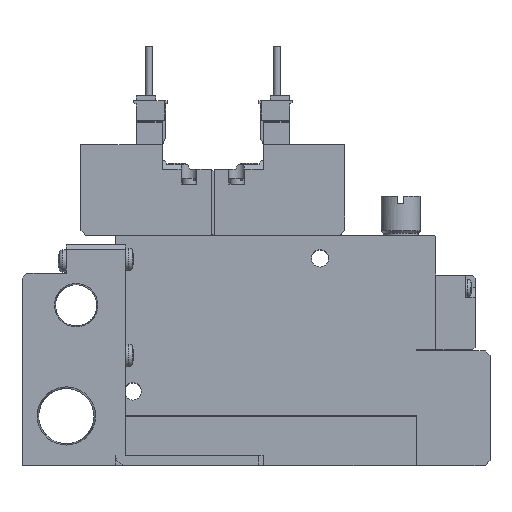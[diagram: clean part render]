
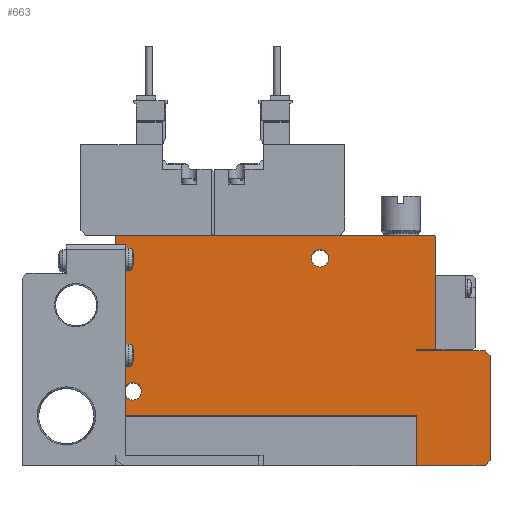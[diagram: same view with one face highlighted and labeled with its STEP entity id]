
A CAD part, top view. The second image highlights one B-rep face of the part: STEP entity #663.
In plain terms, the highlighted planar face has unit normal (0, 0, 1).
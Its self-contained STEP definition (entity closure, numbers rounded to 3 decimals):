
#663=ADVANCED_FACE('',(#1472,#1473,#1474),#1475,.F.);
#1472=FACE_OUTER_BOUND('',#2641,.T.);
#1473=FACE_BOUND('',#2642,.T.);
#1474=FACE_BOUND('',#2643,.T.);
#1475=PLANE('',#2644);
#2641=EDGE_LOOP('',(#5421,#5422,#5423,#5424,#5425,#5426,#5427,#5428,#5429,#5430,#5431,#5432,#5433,#5434));
#2642=EDGE_LOOP('',(#5435));
#2643=EDGE_LOOP('',(#5436));
#2644=AXIS2_PLACEMENT_3D('',#5437,#5438,#5439);
#5421=ORIENTED_EDGE('',*,*,#7870,.T.);
#5422=ORIENTED_EDGE('',*,*,#7878,.F.);
#5423=ORIENTED_EDGE('',*,*,#7879,.F.);
#5424=ORIENTED_EDGE('',*,*,#7880,.T.);
#5425=ORIENTED_EDGE('',*,*,#7867,.T.);
#5426=ORIENTED_EDGE('',*,*,#7881,.T.);
#5427=ORIENTED_EDGE('',*,*,#7882,.T.);
#5428=ORIENTED_EDGE('',*,*,#7883,.T.);
#5429=ORIENTED_EDGE('',*,*,#7884,.T.);
#5430=ORIENTED_EDGE('',*,*,#7885,.T.);
#5431=ORIENTED_EDGE('',*,*,#7886,.T.);
#5432=ORIENTED_EDGE('',*,*,#7887,.T.);
#5433=ORIENTED_EDGE('',*,*,#7888,.T.);
#5434=ORIENTED_EDGE('',*,*,#7889,.T.);
#5435=ORIENTED_EDGE('',*,*,#7890,.F.);
#5436=ORIENTED_EDGE('',*,*,#7891,.F.);
#5437=CARTESIAN_POINT('',(0.0,0.0,5.0));
#5438=DIRECTION('',(0.0,0.0,-1.0));
#5439=DIRECTION('',(0.0,-1.0,0.0));
#7867=EDGE_CURVE('',#9557,#9555,#9558,.T.);
#7870=EDGE_CURVE('',#9562,#9560,#9563,.T.);
#7878=EDGE_CURVE('',#9577,#9560,#9578,.T.);
#7879=EDGE_CURVE('',#9579,#9577,#9580,.T.);
#7880=EDGE_CURVE('',#9579,#9557,#9581,.T.);
#7881=EDGE_CURVE('',#9555,#9582,#9583,.T.);
#7882=EDGE_CURVE('',#9582,#9584,#9585,.T.);
#7883=EDGE_CURVE('',#9584,#9586,#9587,.T.);
#7884=EDGE_CURVE('',#9586,#9588,#9589,.T.);
#7885=EDGE_CURVE('',#9588,#9590,#9591,.T.);
#7886=EDGE_CURVE('',#9590,#9592,#9593,.T.);
#7887=EDGE_CURVE('',#9592,#9594,#9595,.T.);
#7888=EDGE_CURVE('',#9594,#9596,#9597,.T.);
#7889=EDGE_CURVE('',#9596,#9562,#9598,.T.);
#7890=EDGE_CURVE('',#9599,#9599,#9600,.T.);
#7891=EDGE_CURVE('',#9601,#9601,#9602,.T.);
#9555=VERTEX_POINT('',#12281);
#9557=VERTEX_POINT('',#12284);
#9558=LINE('',#12285,#12286);
#9560=VERTEX_POINT('',#12289);
#9562=VERTEX_POINT('',#12292);
#9563=LINE('',#12293,#12294);
#9577=VERTEX_POINT('',#12313);
#9578=LINE('',#12314,#12315);
#9579=VERTEX_POINT('',#12316);
#9580=LINE('',#12317,#12318);
#9581=LINE('',#12319,#12320);
#9582=VERTEX_POINT('',#12321);
#9583=LINE('',#12322,#12323);
#9584=VERTEX_POINT('',#12324);
#9585=LINE('',#12325,#12326);
#9586=VERTEX_POINT('',#12327);
#9587=LINE('',#12328,#12329);
#9588=VERTEX_POINT('',#12330);
#9589=LINE('',#12331,#12332);
#9590=VERTEX_POINT('',#12333);
#9591=LINE('',#12334,#12335);
#9592=VERTEX_POINT('',#12336);
#9593=LINE('',#12337,#12338);
#9594=VERTEX_POINT('',#12339);
#9595=LINE('',#12340,#12341);
#9596=VERTEX_POINT('',#12342);
#9597=LINE('',#12343,#12344);
#9598=LINE('',#12345,#12346);
#9599=VERTEX_POINT('',#12347);
#9600=CIRCLE('',#12348,1.75);
#9601=VERTEX_POINT('',#12349);
#9602=CIRCLE('',#12350,1.75);
#12281=CARTESIAN_POINT('',(76.0,1.0,5.0));
#12284=CARTESIAN_POINT('',(75.0,0.0,5.0));
#12285=CARTESIAN_POINT('',(75.0,0.0,5.0));
#12286=VECTOR('',#15122,1.0);
#12289=CARTESIAN_POINT('',(0.0,10.1,5.0));
#12292=CARTESIAN_POINT('',(0.0,46.4,5.0));
#12293=CARTESIAN_POINT('',(0.0,46.4,5.0));
#12294=VECTOR('',#15125,1.0);
#12313=CARTESIAN_POINT('',(61.1,10.1,5.0));
#12314=CARTESIAN_POINT('',(61.1,10.1,5.0));
#12315=VECTOR('',#15137,1.0);
#12316=CARTESIAN_POINT('',(61.1,0.0,5.0));
#12317=CARTESIAN_POINT('',(61.1,0.0,5.0));
#12318=VECTOR('',#15138,1.0);
#12319=CARTESIAN_POINT('',(0.0,0.0,5.0));
#12320=VECTOR('',#15139,1.0);
#12321=CARTESIAN_POINT('',(76.0,22.25,5.0));
#12322=CARTESIAN_POINT('',(76.0,1.0,5.0));
#12323=VECTOR('',#15140,1.0);
#12324=CARTESIAN_POINT('',(75.0,23.25,5.0));
#12325=CARTESIAN_POINT('',(76.0,22.25,5.0));
#12326=VECTOR('',#15141,1.0);
#12327=CARTESIAN_POINT('',(61.0,23.25,5.0));
#12328=CARTESIAN_POINT('',(75.0,23.25,5.0));
#12329=VECTOR('',#15142,1.0);
#12330=CARTESIAN_POINT('',(61.0,23.5,5.0));
#12331=CARTESIAN_POINT('',(61.0,23.25,5.0));
#12332=VECTOR('',#15143,1.0);
#12333=CARTESIAN_POINT('',(65.0,23.5,5.0));
#12334=CARTESIAN_POINT('',(61.0,23.5,5.0));
#12335=VECTOR('',#15144,1.0);
#12336=CARTESIAN_POINT('',(65.0,46.4,5.0));
#12337=CARTESIAN_POINT('',(65.0,23.5,5.0));
#12338=VECTOR('',#15145,1.0);
#12339=CARTESIAN_POINT('',(64.8,46.6,5.0));
#12340=CARTESIAN_POINT('',(65.0,46.4,5.0));
#12341=VECTOR('',#15146,1.0);
#12342=CARTESIAN_POINT('',(0.2,46.6,5.0));
#12343=CARTESIAN_POINT('',(64.8,46.6,5.0));
#12344=VECTOR('',#15147,1.0);
#12345=CARTESIAN_POINT('',(0.2,46.6,5.0));
#12346=VECTOR('',#15148,1.0);
#12347=CARTESIAN_POINT('',(5.25,15.0,5.0));
#12348=AXIS2_PLACEMENT_3D('',#15149,#15150,#15151);
#12349=CARTESIAN_POINT('',(43.25,42.0,5.0));
#12350=AXIS2_PLACEMENT_3D('',#15152,#15153,#15154);
#15122=DIRECTION('',(0.707,0.707,0.0));
#15125=DIRECTION('',(0.0,-1.0,0.0));
#15137=DIRECTION('',(-1.0,0.0,0.0));
#15138=DIRECTION('',(0.0,1.0,0.0));
#15139=DIRECTION('',(1.0,0.0,0.0));
#15140=DIRECTION('',(0.0,1.0,0.0));
#15141=DIRECTION('',(-0.707,0.707,0.0));
#15142=DIRECTION('',(-1.0,0.0,0.0));
#15143=DIRECTION('',(0.0,1.0,0.0));
#15144=DIRECTION('',(1.0,0.,0.0));
#15145=DIRECTION('',(0.0,1.0,0.0));
#15146=DIRECTION('',(-0.707,0.707,0.0));
#15147=DIRECTION('',(-1.0,0.0,0.0));
#15148=DIRECTION('',(-0.707,-0.707,0.0));
#15149=CARTESIAN_POINT('',(3.5,15.0,5.0));
#15150=DIRECTION('',(0.0,0.0,1.0));
#15151=DIRECTION('',(1.0,0.0,0.0));
#15152=CARTESIAN_POINT('',(41.5,42.0,5.0));
#15153=DIRECTION('',(0.0,0.0,1.0));
#15154=DIRECTION('',(1.0,0.0,0.0));
